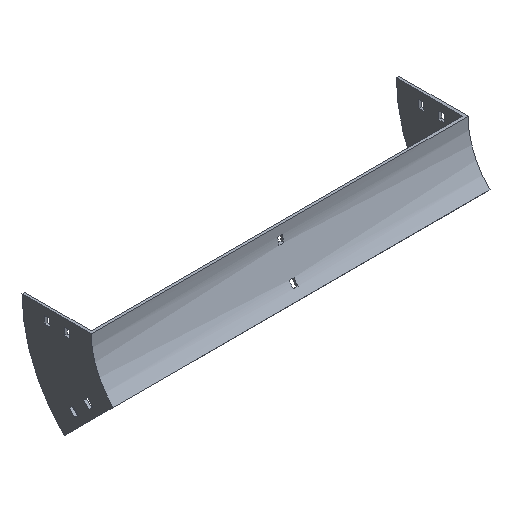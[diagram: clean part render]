
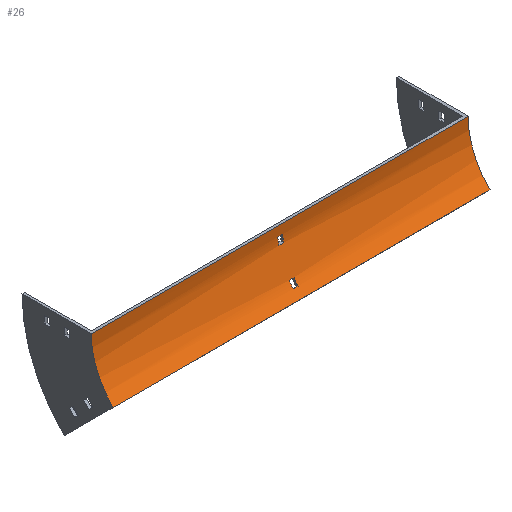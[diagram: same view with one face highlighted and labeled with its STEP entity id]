
A CAD part, isometric view. The second image highlights one B-rep face of the part: STEP entity #26.
In plain terms, the highlighted cylindrical face has radius 100 mm (diameter 200 mm), a partial arc.
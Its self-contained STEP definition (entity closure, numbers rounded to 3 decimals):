
#17 = DIRECTION ( 'NONE',  ( -1., 0., 0. ) ) ;
#26 = ADVANCED_FACE ( 'NONE', ( #517, #701, #1296 ), #153, .F. ) ;
#56 = CARTESIAN_POINT ( 'NONE',  ( -252., -100., 0. ) ) ;
#63 = DIRECTION ( 'NONE',  ( -1., 0., 0. ) ) ;
#69 = VERTEX_POINT ( 'NONE', #1387 ) ;
#94 = ORIENTED_EDGE ( 'NONE', *, *, #1008, .T. ) ;
#102 = VERTEX_POINT ( 'NONE', #1112 ) ;
#104 = CARTESIAN_POINT ( 'NONE',  ( -3.25, -0.723, -12. ) ) ;
#137 = VERTEX_POINT ( 'NONE', #334 ) ;
#153 = CYLINDRICAL_SURFACE ( 'NONE', #969, 100. ) ;
#159 = LINE ( 'NONE', #1443, #941 ) ;
#192 = EDGE_CURVE ( 'NONE', #69, #1038, #353, .T. ) ;
#203 = LINE ( 'NONE', #322, #945 ) ;
#268 = CIRCLE ( 'NONE', #927, 100. ) ;
#295 = ORIENTED_EDGE ( 'NONE', *, *, #1308, .F. ) ;
#297 = DIRECTION ( 'NONE',  ( -1., 0., 0. ) ) ;
#322 = CARTESIAN_POINT ( 'NONE',  ( 252., -0.723, -12. ) ) ;
#325 = VERTEX_POINT ( 'NONE', #817 ) ;
#330 = VECTOR ( 'NONE', #297, 1000. ) ;
#334 = CARTESIAN_POINT ( 'NONE',  ( -3.25, -2.23, -21. ) ) ;
#345 = EDGE_CURVE ( 'NONE', #1658, #1370, #159, .T. ) ;
#349 = CIRCLE ( 'NONE', #849, 100. ) ;
#353 = LINE ( 'NONE', #521, #1024 ) ;
#357 = CARTESIAN_POINT ( 'NONE',  ( 3.25, -21.315, -61.714 ) ) ;
#365 = CARTESIAN_POINT ( 'NONE',  ( -252., 0., 0. ) ) ;
#392 = CARTESIAN_POINT ( 'NONE',  ( 3.25, -100., 0. ) ) ;
#422 = VERTEX_POINT ( 'NONE', #1355 ) ;
#445 = LINE ( 'NONE', #1629, #643 ) ;
#452 = DIRECTION ( 'NONE',  ( 0., 0., 1. ) ) ;
#496 = ORIENTED_EDGE ( 'NONE', *, *, #873, .T. ) ;
#501 = AXIS2_PLACEMENT_3D ( 'NONE', #766, #901, #610 ) ;
#513 = DIRECTION ( 'NONE',  ( 1., 0., 0. ) ) ;
#517 = FACE_OUTER_BOUND ( 'NONE', #1004, .T. ) ;
#521 = CARTESIAN_POINT ( 'NONE',  ( 252., -21.315, -61.714 ) ) ;
#536 = AXIS2_PLACEMENT_3D ( 'NONE', #1057, #1176, #928 ) ;
#542 = ORIENTED_EDGE ( 'NONE', *, *, #345, .T. ) ;
#545 = VERTEX_POINT ( 'NONE', #104 ) ;
#595 = EDGE_CURVE ( 'NONE', #661, #1035, #1274, .T. ) ;
#610 = DIRECTION ( 'NONE',  ( 0., 0., 1. ) ) ;
#643 = VECTOR ( 'NONE', #837, 1000. ) ;
#647 = DIRECTION ( 'NONE',  ( -1., 0., 0. ) ) ;
#661 = VERTEX_POINT ( 'NONE', #787 ) ;
#676 = DIRECTION ( 'NONE',  ( -1., 0., 0. ) ) ;
#687 = EDGE_CURVE ( 'NONE', #1038, #1137, #1002, .T. ) ;
#701 = FACE_BOUND ( 'NONE', #1260, .T. ) ;
#766 = CARTESIAN_POINT ( 'NONE',  ( -3.25, -100., 0. ) ) ;
#768 = CARTESIAN_POINT ( 'NONE',  ( 252., -29.289, -70.711 ) ) ;
#773 = ORIENTED_EDGE ( 'NONE', *, *, #1330, .T. ) ;
#787 = CARTESIAN_POINT ( 'NONE',  ( 252., -29.289, -70.711 ) ) ;
#817 = CARTESIAN_POINT ( 'NONE',  ( 3.25, -2.23, -21. ) ) ;
#832 = EDGE_CURVE ( 'NONE', #325, #137, #445, .T. ) ;
#837 = DIRECTION ( 'NONE',  ( -1., 0., 0. ) ) ;
#842 = LINE ( 'NONE', #1368, #330 ) ;
#849 = AXIS2_PLACEMENT_3D ( 'NONE', #1284, #1198, #1311 ) ;
#873 = EDGE_CURVE ( 'NONE', #545, #102, #203, .T. ) ;
#877 = CARTESIAN_POINT ( 'NONE',  ( -252., -29.289, -70.711 ) ) ;
#901 = DIRECTION ( 'NONE',  ( 1., 0., 0. ) ) ;
#914 = CIRCLE ( 'NONE', #1480, 100. ) ;
#927 = AXIS2_PLACEMENT_3D ( 'NONE', #56, #1343, #452 ) ;
#928 = DIRECTION ( 'NONE',  ( 0., 0., 1. ) ) ;
#938 = CIRCLE ( 'NONE', #501, 100. ) ;
#941 = VECTOR ( 'NONE', #17, 1000. ) ;
#945 = VECTOR ( 'NONE', #1362, 1000. ) ;
#958 = CARTESIAN_POINT ( 'NONE',  ( 252., -100., 0. ) ) ;
#969 = AXIS2_PLACEMENT_3D ( 'NONE', #1334, #676, #1219 ) ;
#1000 = ORIENTED_EDGE ( 'NONE', *, *, #1615, .T. ) ;
#1002 = CIRCLE ( 'NONE', #536, 100. ) ;
#1004 = EDGE_LOOP ( 'NONE', ( #773, #1559, #295, #542 ) ) ;
#1008 = EDGE_CURVE ( 'NONE', #137, #545, #938, .T. ) ;
#1020 = EDGE_LOOP ( 'NONE', ( #1505, #1174, #1077, #1539 ) ) ;
#1023 = DIRECTION ( 'NONE',  ( -1., 0., 0. ) ) ;
#1024 = VECTOR ( 'NONE', #513, 1000. ) ;
#1035 = VERTEX_POINT ( 'NONE', #877 ) ;
#1038 = VERTEX_POINT ( 'NONE', #357 ) ;
#1057 = CARTESIAN_POINT ( 'NONE',  ( 3.25, -100., 0. ) ) ;
#1070 = DIRECTION ( 'NONE',  ( 0., 0., -1. ) ) ;
#1077 = ORIENTED_EDGE ( 'NONE', *, *, #687, .F. ) ;
#1112 = CARTESIAN_POINT ( 'NONE',  ( 3.25, -0.723, -12. ) ) ;
#1137 = VERTEX_POINT ( 'NONE', #1596 ) ;
#1174 = ORIENTED_EDGE ( 'NONE', *, *, #1270, .F. ) ;
#1176 = DIRECTION ( 'NONE',  ( 1., 0., 0. ) ) ;
#1195 = ORIENTED_EDGE ( 'NONE', *, *, #832, .T. ) ;
#1198 = DIRECTION ( 'NONE',  ( -1., 0., 0. ) ) ;
#1205 = CARTESIAN_POINT ( 'NONE',  ( 252., 0., 0. ) ) ;
#1219 = DIRECTION ( 'NONE',  ( 0., 0., 1. ) ) ;
#1260 = EDGE_LOOP ( 'NONE', ( #1195, #94, #496, #1000 ) ) ;
#1270 = EDGE_CURVE ( 'NONE', #1137, #422, #842, .T. ) ;
#1274 = LINE ( 'NONE', #768, #1655 ) ;
#1284 = CARTESIAN_POINT ( 'NONE',  ( -3.25, -100., 0. ) ) ;
#1296 = FACE_BOUND ( 'NONE', #1020, .T. ) ;
#1308 = EDGE_CURVE ( 'NONE', #1658, #661, #914, .T. ) ;
#1311 = DIRECTION ( 'NONE',  ( 0., 0., -1. ) ) ;
#1330 = EDGE_CURVE ( 'NONE', #1370, #1035, #268, .T. ) ;
#1334 = CARTESIAN_POINT ( 'NONE',  ( 252., -100., 0. ) ) ;
#1343 = DIRECTION ( 'NONE',  ( -1., 0., 0. ) ) ;
#1355 = CARTESIAN_POINT ( 'NONE',  ( -3.25, -16.017, -54.285 ) ) ;
#1362 = DIRECTION ( 'NONE',  ( 1., 0., 0. ) ) ;
#1368 = CARTESIAN_POINT ( 'NONE',  ( 252., -16.017, -54.285 ) ) ;
#1370 = VERTEX_POINT ( 'NONE', #365 ) ;
#1387 = CARTESIAN_POINT ( 'NONE',  ( -3.25, -21.315, -61.714 ) ) ;
#1414 = CIRCLE ( 'NONE', #1695, 100. ) ;
#1443 = CARTESIAN_POINT ( 'NONE',  ( 252., 0., 0. ) ) ;
#1480 = AXIS2_PLACEMENT_3D ( 'NONE', #958, #63, #1494 ) ;
#1494 = DIRECTION ( 'NONE',  ( 0., 0., 1. ) ) ;
#1505 = ORIENTED_EDGE ( 'NONE', *, *, #1543, .F. ) ;
#1539 = ORIENTED_EDGE ( 'NONE', *, *, #192, .F. ) ;
#1543 = EDGE_CURVE ( 'NONE', #422, #69, #349, .T. ) ;
#1559 = ORIENTED_EDGE ( 'NONE', *, *, #595, .F. ) ;
#1596 = CARTESIAN_POINT ( 'NONE',  ( 3.25, -16.017, -54.285 ) ) ;
#1615 = EDGE_CURVE ( 'NONE', #102, #325, #1414, .T. ) ;
#1629 = CARTESIAN_POINT ( 'NONE',  ( 252., -2.23, -21. ) ) ;
#1655 = VECTOR ( 'NONE', #1023, 1000. ) ;
#1658 = VERTEX_POINT ( 'NONE', #1205 ) ;
#1695 = AXIS2_PLACEMENT_3D ( 'NONE', #392, #647, #1070 ) ;
